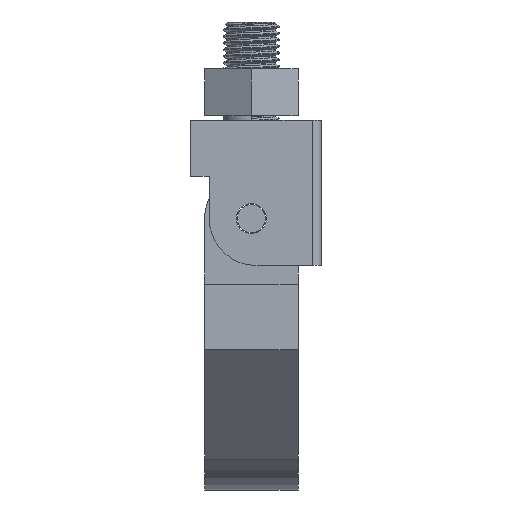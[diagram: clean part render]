
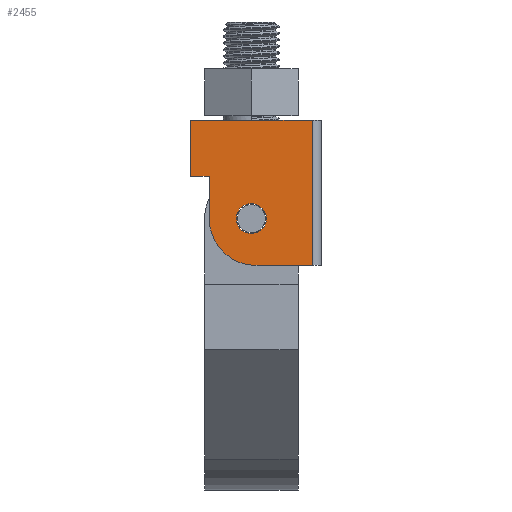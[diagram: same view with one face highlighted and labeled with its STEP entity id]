
A CAD part, left-side view. The second image highlights one B-rep face of the part: STEP entity #2455.
In plain terms, the highlighted planar face has unit normal (-1, 0, 0).
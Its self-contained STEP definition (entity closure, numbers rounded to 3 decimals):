
#43 = EDGE_CURVE ( 'NONE', #4533, #5192, #5636, .T. ) ;
#44 = CARTESIAN_POINT ( 'NONE',  ( -8.5, 6., -2. ) ) ;
#167 = LINE ( 'NONE', #2016, #948 ) ;
#178 = ORIENTED_EDGE ( 'NONE', *, *, #5427, .F. ) ;
#236 = DIRECTION ( 'NONE',  ( 0., 0., -1. ) ) ;
#238 = VERTEX_POINT ( 'NONE', #7365 ) ;
#245 = EDGE_CURVE ( 'NONE', #5128, #5962, #1672, .T. ) ;
#291 = EDGE_CURVE ( 'NONE', #3773, #238, #7562, .T. ) ;
#331 = CARTESIAN_POINT ( 'NONE',  ( -8.5, 10.5, -7. ) ) ;
#341 = VERTEX_POINT ( 'NONE', #2864 ) ;
#532 = ORIENTED_EDGE ( 'NONE', *, *, #1047, .F. ) ;
#704 = EDGE_LOOP ( 'NONE', ( #2101, #7613 ) ) ;
#804 = EDGE_CURVE ( 'NONE', #5192, #4533, #1247, .T. ) ;
#948 = VECTOR ( 'NONE', #4288, 1000. ) ;
#1047 = EDGE_CURVE ( 'NONE', #2983, #5962, #2884, .T. ) ;
#1116 = LINE ( 'NONE', #1700, #1682 ) ;
#1180 = VECTOR ( 'NONE', #1637, 1000. ) ;
#1247 = CIRCLE ( 'NONE', #4917, 1.6 ) ;
#1432 = CARTESIAN_POINT ( 'NONE',  ( -8.5, 0., 0. ) ) ;
#1581 = DIRECTION ( 'NONE',  ( 0., 0., -1. ) ) ;
#1637 = DIRECTION ( 'NONE',  ( 0., -1., 0. ) ) ;
#1672 = CIRCLE ( 'NONE', #5971, 5. ) ;
#1679 = CARTESIAN_POINT ( 'NONE',  ( -8.5, 6., 0. ) ) ;
#1682 = VECTOR ( 'NONE', #2733, 1000. ) ;
#1700 = CARTESIAN_POINT ( 'NONE',  ( -8.5, 15.5, -2. ) ) ;
#1773 = ORIENTED_EDGE ( 'NONE', *, *, #6610, .T. ) ;
#1878 = FACE_OUTER_BOUND ( 'NONE', #3299, .T. ) ;
#1899 = CARTESIAN_POINT ( 'NONE',  ( -8.5, 10.5, -6.5 ) ) ;
#2016 = CARTESIAN_POINT ( 'NONE',  ( -8.5, 0., -13. ) ) ;
#2101 = ORIENTED_EDGE ( 'NONE', *, *, #804, .T. ) ;
#2315 = LINE ( 'NONE', #3353, #3150 ) ;
#2324 = AXIS2_PLACEMENT_3D ( 'NONE', #1899, #6598, #3089 ) ;
#2354 = DIRECTION ( 'NONE',  ( 0., 0., 1. ) ) ;
#2455 = ADVANCED_FACE ( 'NONE', ( #6078, #1878 ), #6702, .F. ) ;
#2548 = ORIENTED_EDGE ( 'NONE', *, *, #245, .T. ) ;
#2670 = DIRECTION ( 'NONE',  ( -1., 0., 0. ) ) ;
#2733 = DIRECTION ( 'NONE',  ( 0., -1., 0. ) ) ;
#2783 = CARTESIAN_POINT ( 'NONE',  ( -8.5, 10.5, -8.1 ) ) ;
#2796 = CARTESIAN_POINT ( 'NONE',  ( -8.5, 6., -2. ) ) ;
#2864 = CARTESIAN_POINT ( 'NONE',  ( -8.5, 0., -13. ) ) ;
#2884 = LINE ( 'NONE', #4113, #4307 ) ;
#2983 = VERTEX_POINT ( 'NONE', #4698 ) ;
#3089 = DIRECTION ( 'NONE',  ( 0., 0., -1. ) ) ;
#3150 = VECTOR ( 'NONE', #7473, 1000. ) ;
#3299 = EDGE_LOOP ( 'NONE', ( #532, #1773, #3874, #5653, #3357, #178, #2548 ) ) ;
#3353 = CARTESIAN_POINT ( 'NONE',  ( -8.5, 0., 0. ) ) ;
#3357 = ORIENTED_EDGE ( 'NONE', *, *, #5767, .F. ) ;
#3386 = CARTESIAN_POINT ( 'NONE',  ( -8.5, 10.5, -6.5 ) ) ;
#3757 = CARTESIAN_POINT ( 'NONE',  ( -8.5, 15.5, -7. ) ) ;
#3773 = VERTEX_POINT ( 'NONE', #5830 ) ;
#3874 = ORIENTED_EDGE ( 'NONE', *, *, #6851, .F. ) ;
#4086 = CARTESIAN_POINT ( 'NONE',  ( -8.5, 10.5, -2. ) ) ;
#4113 = CARTESIAN_POINT ( 'NONE',  ( -8.5, 15.5, -14. ) ) ;
#4223 = DIRECTION ( 'NONE',  ( 1., 0., 0. ) ) ;
#4288 = DIRECTION ( 'NONE',  ( 0., -1., 0. ) ) ;
#4307 = VECTOR ( 'NONE', #5389, 1000. ) ;
#4518 = VECTOR ( 'NONE', #2354, 1000. ) ;
#4533 = VERTEX_POINT ( 'NONE', #5259 ) ;
#4698 = CARTESIAN_POINT ( 'NONE',  ( -8.5, 15.5, -13. ) ) ;
#4917 = AXIS2_PLACEMENT_3D ( 'NONE', #3386, #6971, #1581 ) ;
#4923 = AXIS2_PLACEMENT_3D ( 'NONE', #1432, #4223, #236 ) ;
#5021 = DIRECTION ( 'NONE',  ( 0., 0., -1. ) ) ;
#5128 = VERTEX_POINT ( 'NONE', #4086 ) ;
#5192 = VERTEX_POINT ( 'NONE', #2783 ) ;
#5259 = CARTESIAN_POINT ( 'NONE',  ( -8.5, 10.5, -4.9 ) ) ;
#5389 = DIRECTION ( 'NONE',  ( 0., 0., 1. ) ) ;
#5427 = EDGE_CURVE ( 'NONE', #5128, #6967, #1116, .T. ) ;
#5636 = CIRCLE ( 'NONE', #2324, 1.6 ) ;
#5653 = ORIENTED_EDGE ( 'NONE', *, *, #291, .F. ) ;
#5767 = EDGE_CURVE ( 'NONE', #6967, #3773, #5931, .T. ) ;
#5830 = CARTESIAN_POINT ( 'NONE',  ( -8.5, 6., 0. ) ) ;
#5931 = LINE ( 'NONE', #44, #4518 ) ;
#5962 = VERTEX_POINT ( 'NONE', #3757 ) ;
#5971 = AXIS2_PLACEMENT_3D ( 'NONE', #331, #2670, #5021 ) ;
#6078 = FACE_BOUND ( 'NONE', #704, .T. ) ;
#6598 = DIRECTION ( 'NONE',  ( 1., 0., 0. ) ) ;
#6610 = EDGE_CURVE ( 'NONE', #2983, #341, #167, .T. ) ;
#6702 = PLANE ( 'NONE',  #4923 ) ;
#6851 = EDGE_CURVE ( 'NONE', #238, #341, #2315, .T. ) ;
#6967 = VERTEX_POINT ( 'NONE', #2796 ) ;
#6971 = DIRECTION ( 'NONE',  ( 1., 0., 0. ) ) ;
#7365 = CARTESIAN_POINT ( 'NONE',  ( -8.5, 0., 0. ) ) ;
#7473 = DIRECTION ( 'NONE',  ( 0., 0., -1. ) ) ;
#7562 = LINE ( 'NONE', #1679, #1180 ) ;
#7613 = ORIENTED_EDGE ( 'NONE', *, *, #43, .T. ) ;
